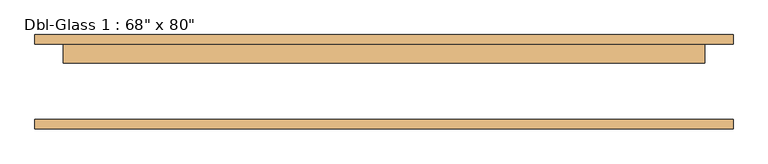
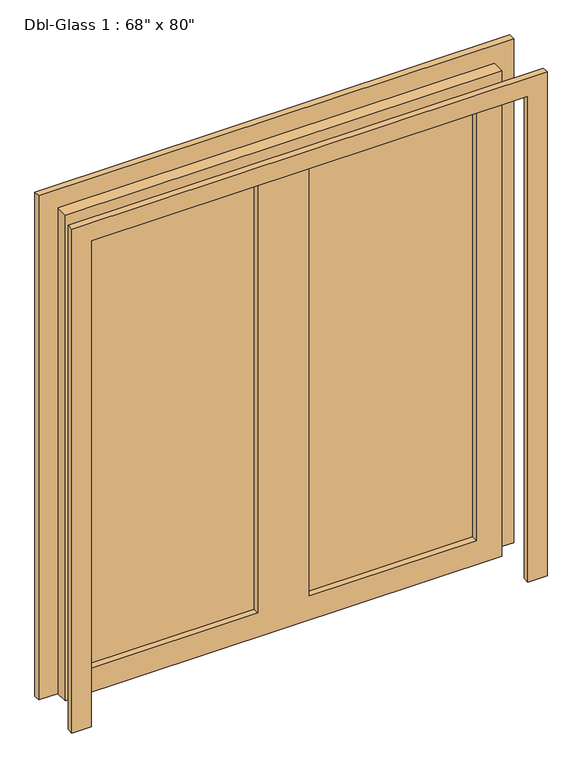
"""IFC4 building model written with IfcOpenShell, lengths in millimetres: door geometry."""

from ifc_helpers import new_model, si_unit, frame, origin, place, context, project, spatial, polyline, outline, extrude, source, transform, mapped, element, save


def door_03927de7(model_context):
    return source(origin(), model_context, "Body", "SweptSolid", [
        extrude(outline(polyline([(0.0, 939.8), (2108.2, 939.8), (2108.2, -939.8), (0.0, -939.8), (0.0, -863.6), (2032.0, -863.6), (2032.0, 863.6), (0.0, 863.6), (0.0, 939.8)])), frame((0.0, -124.6258929, 0.0), z_axis=(0.0, 1.0, 0.0), x_axis=(0.0, 0.0, 1.0)), (0.0, 0.0, 1.0), 25.4),
        extrude(outline(polyline([(2032.0, 863.6), (0.0, 863.6), (0.0, 939.8), (2108.2, 939.8), (2108.2, -939.8), (0.0, -939.8), (0.0, -863.6), (2032.0, -863.6), (2032.0, 863.6)])), frame((0.0, 103.9741071, 0.0), z_axis=(0.0, 1.0, 0.0), x_axis=(0.0, 0.0, 1.0)), (0.0, 0.0, 1.0), 25.4),
        extrude(outline(polyline([(762.0, 78.5741071), (101.6, 78.5741071), (101.6, 85.7178571), (762.0, 85.7178571), (762.0, 78.5741071)])), frame((0.0, 0.0, 101.6), z_axis=(0.0, 0.0, 1.0), x_axis=(1.0, 0.0, 0.0)), (0.0, 0.0, 1.0), 1828.8),
        extrude(outline(polyline([(-101.6, 78.5741071), (-762.0, 78.5741071), (-762.0, 85.7178571), (-101.6, 85.7178571), (-101.6, 78.5741071)])), frame((0.0, 0.0, 101.6), z_axis=(0.0, 0.0, 1.0), x_axis=(1.0, 0.0, 0.0)), (0.0, 0.0, 1.0), 1828.8),
        extrude(outline(polyline([(2032.0, 863.6), (2032.0, -863.6), (0.0, -863.6), (0.0, 863.6), (2032.0, 863.6)]), holes=[polyline([(1930.4, -101.6), (101.6, -101.6), (101.6, -762.0), (1930.4, -762.0), (1930.4, -101.6)]), polyline([(1930.4, 762.0), (101.6, 762.0), (101.6, 101.6), (1930.4, 101.6), (1930.4, 762.0)])]), frame((0.0, 53.1741071, 0.0), z_axis=(0.0, 1.0, 0.0), x_axis=(0.0, 0.0, 1.0)), (0.0, 0.0, 1.0), 50.8),
    ])


if __name__ == "__main__":
    model = new_model("IFC4")
    model_context = context("Model", 3, world=origin())
    ifc_project = project(units=[si_unit("LENGTHUNIT", "METRE", prefix="MILLI")], contexts=[model_context])
    site = spatial("IfcSite", under=ifc_project)
    building = spatial("IfcBuilding", under=site)
    placement = place(None, origin())
    door_shape = door_03927de7(model_context)
    element("IfcDoor", 1, ObjectType="Dbl-Glass 1 : 68\" x 80\"", at=placement, inside=building, context=model_context, shape_type="MappedRepresentation", body=[
        mapped(door_shape, transform((0.0, 0.0, 0.0), x_axis=(1.0, 0.0, 0.0), y_axis=(0.0, 1.0, 0.0), z_axis=(0.0, 0.0, 1.0))),
    ])
    save(model, "model.ifc")
